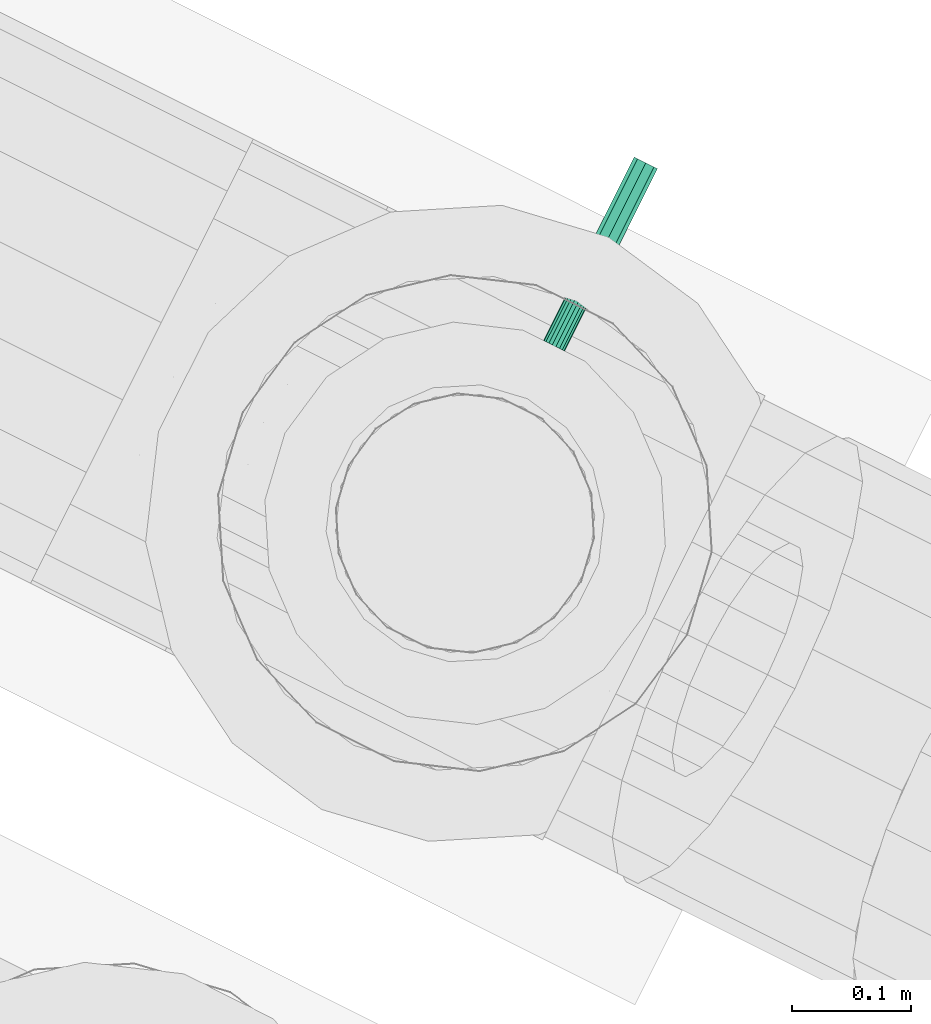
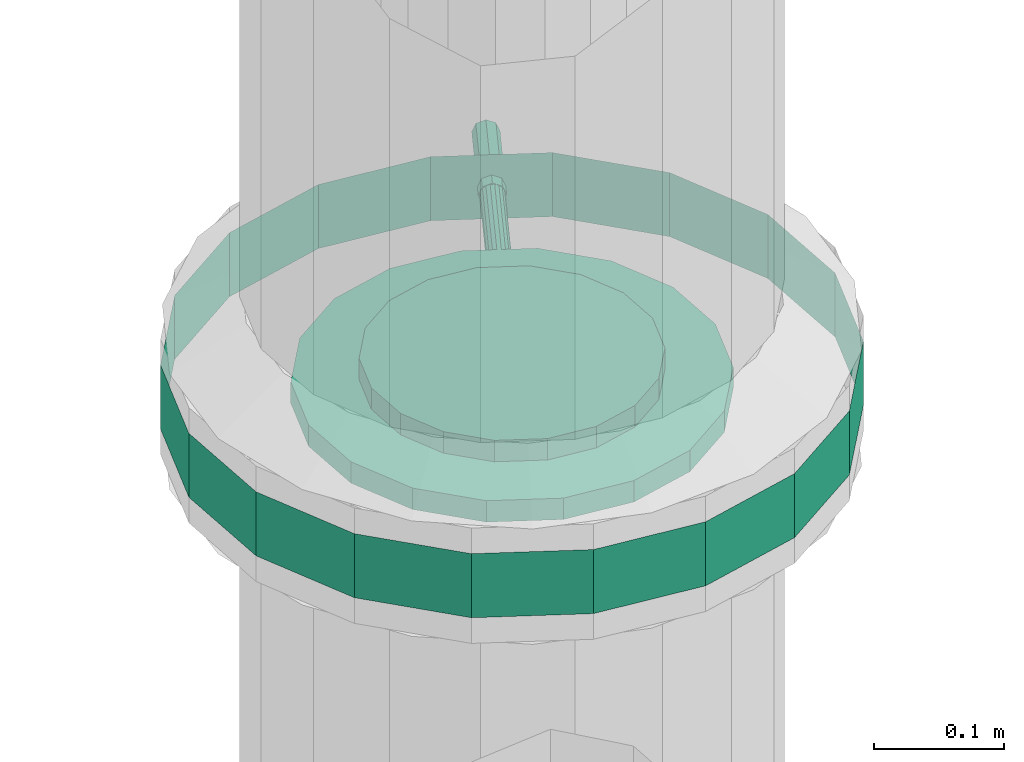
# One storey, part 138 of 152: 1 flow controller.
"""IFC2X3 building model written with IfcOpenShell, lengths in metres."""

from ifc_helpers import new_model, si_unit, derived_unit, direction, frame, origin, place, context, subcontext, project, spatial, face_set, surface_model, source, transform, mapped, material, type_object, type_shapes, element, save


model = new_model("IFC2X3")

# Units and contexts
model_context = context("Model", 3, precision=5.2338327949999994e-05, world=origin(), true_north=direction((0.0, 1.0)))
body_context = subcontext(model_context, "Body", "Model", "MODEL_VIEW")
ifc_project = project(units=[si_unit("LENGTHUNIT", "METRE"), si_unit("AREAUNIT", "SQUARE_METRE"), si_unit("VOLUMEUNIT", "CUBIC_METRE"), si_unit("MASSUNIT", "GRAM", prefix="KILO"), si_unit("PLANEANGLEUNIT", "RADIAN"), derived_unit("THERMALTRANSMITTANCEUNIT", [(si_unit("MASSUNIT", "GRAM", prefix="KILO"), 1), (si_unit("THERMODYNAMICTEMPERATUREUNIT", "KELVIN"), -1), (si_unit("TIMEUNIT", "SECOND"), -3)])], contexts=[model_context])

# Site, building, storey
site_placement = place(None, frame((0.0, 0.0, 0.0), z_axis=(0.0, 0.0, 1.0), x_axis=(0.8939966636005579, -0.4480736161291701, 0.0)))
site = spatial("IfcSite", under=ifc_project, at=site_placement, Name="Default", CompositionType="ELEMENT")
building_placement = place(site_placement, origin())
building = spatial("IfcBuilding", under=site, at=building_placement, CompositionType="ELEMENT")
storey_placement = place(building_placement, frame((0.0, 0.0, 2.7499999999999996)))
storey = spatial("IfcBuildingStorey", under=building, at=storey_placement, Name="1. Obergeschoss", CompositionType="ELEMENT", Elevation=2.7499999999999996)

# Flow controller
ifc_material = material(Name="IfcSurfaceStyle #1741")
distribution_element_type = type_object("IfcDistributionElementType", Name="Zwischenflanschklappe 5613:Zwischenflanschklappe 5613", material=ifc_material)
shared_shape = source(origin(), body_context, "Body", "SurfaceModel", [
    surface_model("IfcFaceBasedSurfaceModel", [(11.608314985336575, 8.012208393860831, 4.161028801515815), (11.615401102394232, 8.052395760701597, 4.161028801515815), (11.615401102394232, 8.052395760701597, 4.141028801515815), (11.608314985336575, 8.012208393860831, 4.141028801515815), (11.635804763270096, 8.087735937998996, 4.161028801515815), (11.635804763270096, 8.087735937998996, 4.141028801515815), (11.667064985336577, 8.113966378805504, 4.161028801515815), (11.667064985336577, 8.113966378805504, 4.141028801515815), (11.705411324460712, 8.127923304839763, 4.161028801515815), (11.705411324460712, 8.127923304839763, 4.141028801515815), (11.74621864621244, 8.127923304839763, 4.161028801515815), (11.74621864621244, 8.127923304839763, 4.141028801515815), (11.784564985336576, 8.113966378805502, 4.161028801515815), (11.784564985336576, 8.113966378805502, 4.141028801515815), (11.815825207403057, 8.087735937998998, 4.161028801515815), (11.815825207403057, 8.087735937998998, 4.141028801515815), (11.836228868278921, 8.052395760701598, 4.161028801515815), (11.836228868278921, 8.052395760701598, 4.141028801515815), (11.843314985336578, 8.012208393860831, 4.161028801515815), (11.843314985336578, 8.012208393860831, 4.141028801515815), (11.836228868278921, 7.972021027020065, 4.161028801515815), (11.836228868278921, 7.972021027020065, 4.141028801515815), (11.815825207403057, 7.936680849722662, 4.161028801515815), (11.815825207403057, 7.936680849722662, 4.141028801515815), (11.784564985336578, 7.91045040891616, 4.161028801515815), (11.784564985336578, 7.91045040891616, 4.141028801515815), (11.74621864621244, 7.896493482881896, 4.161028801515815), (11.74621864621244, 7.896493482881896, 4.141028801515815), (11.705411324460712, 7.896493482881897, 4.161028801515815), (11.705411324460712, 7.896493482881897, 4.141028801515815), (11.667064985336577, 7.910450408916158, 4.161028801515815), (11.667064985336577, 7.910450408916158, 4.141028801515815), (11.635804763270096, 7.936680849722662, 4.161028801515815), (11.635804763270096, 7.936680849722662, 4.141028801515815), (11.615401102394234, 7.972021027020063, 4.161028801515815), (11.615401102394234, 7.972021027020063, 4.141028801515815), (11.725814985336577, 8.012208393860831, 4.161028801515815), (11.725814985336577, 8.012208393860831, 4.141028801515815), (11.555814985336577, 8.012208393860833, 4.141028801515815), (11.566067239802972, 8.070351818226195, 4.141028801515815), (11.566067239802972, 8.070351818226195, 4.1210288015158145), (11.555814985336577, 8.012208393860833, 4.1210288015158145), (11.595587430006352, 8.121482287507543, 4.141028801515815), (11.595587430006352, 8.121482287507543, 4.1210288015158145), (11.640814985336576, 8.159432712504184, 4.141028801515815), (11.640814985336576, 8.159432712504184, 4.1210288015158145), (11.696294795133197, 8.179625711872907, 4.141028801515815), (11.696294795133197, 8.179625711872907, 4.1210288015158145), (11.755335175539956, 8.179625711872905, 4.141028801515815), (11.755335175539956, 8.179625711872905, 4.1210288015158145), (11.810814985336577, 8.159432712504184, 4.141028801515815), (11.810814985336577, 8.159432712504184, 4.1210288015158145), (11.856042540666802, 8.121482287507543, 4.141028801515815), (11.856042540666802, 8.121482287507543, 4.1210288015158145), (11.885562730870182, 8.070351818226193, 4.141028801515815), (11.885562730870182, 8.070351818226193, 4.1210288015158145), (11.895814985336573, 8.012208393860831, 4.141028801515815), (11.895814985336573, 8.012208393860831, 4.1210288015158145), (11.885562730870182, 7.954064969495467, 4.141028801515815), (11.885562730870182, 7.954064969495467, 4.1210288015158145), (11.856042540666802, 7.9029345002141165, 4.141028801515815), (11.856042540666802, 7.9029345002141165, 4.1210288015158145), (11.810814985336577, 7.864984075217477, 4.141028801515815), (11.810814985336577, 7.864984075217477, 4.1210288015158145), (11.755335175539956, 7.844791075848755, 4.141028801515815), (11.755335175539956, 7.844791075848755, 4.1210288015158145), (11.696294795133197, 7.844791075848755, 4.141028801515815), (11.696294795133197, 7.844791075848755, 4.1210288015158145), (11.640814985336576, 7.8649840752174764, 4.141028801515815), (11.640814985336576, 7.8649840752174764, 4.1210288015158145), (11.595587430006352, 7.90293450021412, 4.141028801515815), (11.595587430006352, 7.90293450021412, 4.1210288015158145), (11.566067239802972, 7.954064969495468, 4.141028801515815), (11.566067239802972, 7.954064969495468, 4.1210288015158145), (11.725814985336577, 8.012208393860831, 4.1210288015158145), (11.608314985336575, 8.012208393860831, 4.1210288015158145), (11.615401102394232, 8.052395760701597, 4.1210288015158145), (11.615401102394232, 8.052395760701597, 4.101028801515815), (11.608314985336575, 8.012208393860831, 4.101028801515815), (11.635804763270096, 8.087735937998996, 4.1210288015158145), (11.635804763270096, 8.087735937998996, 4.101028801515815), (11.667064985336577, 8.113966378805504, 4.1210288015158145), (11.667064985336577, 8.113966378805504, 4.101028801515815), (11.705411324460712, 8.127923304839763, 4.1210288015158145), (11.705411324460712, 8.127923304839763, 4.101028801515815), (11.74621864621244, 8.127923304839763, 4.1210288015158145), (11.74621864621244, 8.127923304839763, 4.101028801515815), (11.784564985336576, 8.113966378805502, 4.1210288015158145), (11.784564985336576, 8.113966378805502, 4.101028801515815), (11.815825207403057, 8.087735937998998, 4.1210288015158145), (11.815825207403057, 8.087735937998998, 4.101028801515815), (11.836228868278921, 8.052395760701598, 4.1210288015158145), (11.836228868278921, 8.052395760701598, 4.101028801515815), (11.843314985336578, 8.012208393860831, 4.1210288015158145), (11.843314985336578, 8.012208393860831, 4.101028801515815), (11.836228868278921, 7.972021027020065, 4.1210288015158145), (11.836228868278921, 7.972021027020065, 4.101028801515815), (11.815825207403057, 7.936680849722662, 4.1210288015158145), (11.815825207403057, 7.936680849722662, 4.101028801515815), (11.784564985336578, 7.91045040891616, 4.1210288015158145), (11.784564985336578, 7.91045040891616, 4.101028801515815), (11.74621864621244, 7.896493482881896, 4.1210288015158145), (11.74621864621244, 7.896493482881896, 4.101028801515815), (11.705411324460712, 7.896493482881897, 4.1210288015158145), (11.705411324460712, 7.896493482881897, 4.101028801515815), (11.667064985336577, 7.910450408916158, 4.1210288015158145), (11.667064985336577, 7.910450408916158, 4.101028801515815), (11.635804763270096, 7.936680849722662, 4.1210288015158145), (11.635804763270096, 7.936680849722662, 4.101028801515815), (11.615401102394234, 7.972021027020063, 4.1210288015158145), (11.615401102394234, 7.972021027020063, 4.101028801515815), (11.725814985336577, 8.012208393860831, 4.101028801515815), (11.715814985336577, 8.012208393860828, 4.131028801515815), (11.716418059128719, 8.012208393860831, 4.134449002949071), (11.716418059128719, 8.26720839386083, 4.13444900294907), (11.715814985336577, 8.267208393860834, 4.131028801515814), (11.718154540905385, 8.012208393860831, 4.137456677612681), (11.718154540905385, 8.267208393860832, 4.137456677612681), (11.720814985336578, 8.012208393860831, 4.139689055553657), (11.720814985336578, 8.267208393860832, 4.139689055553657), (11.724078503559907, 8.012208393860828, 4.140876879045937), (11.724078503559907, 8.26720839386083, 4.140876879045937), (11.727551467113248, 8.012208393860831, 4.140876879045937), (11.727551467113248, 8.267208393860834, 4.140876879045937), (11.730814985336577, 8.012208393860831, 4.139689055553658), (11.730814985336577, 8.267208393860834, 4.139689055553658), (11.73347542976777, 8.012208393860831, 4.137456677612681), (11.73347542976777, 8.267208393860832, 4.137456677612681), (11.735211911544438, 8.012208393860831, 4.134449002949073), (11.735211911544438, 8.267208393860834, 4.134449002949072), (11.735814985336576, 8.012208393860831, 4.131028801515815), (11.735814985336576, 8.267208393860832, 4.131028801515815), (11.735211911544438, 8.012208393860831, 4.127608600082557), (11.735211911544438, 8.267208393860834, 4.127608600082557), (11.73347542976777, 8.012208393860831, 4.1246009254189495), (11.73347542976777, 8.267208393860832, 4.1246009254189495), (11.730814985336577, 8.012208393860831, 4.122368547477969), (11.730814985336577, 8.267208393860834, 4.122368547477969), (11.727551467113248, 8.012208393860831, 4.121180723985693), (11.727551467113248, 8.267208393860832, 4.121180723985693), (11.724078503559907, 8.012208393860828, 4.121180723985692), (11.724078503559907, 8.26720839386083, 4.121180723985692), (11.720814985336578, 8.012208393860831, 4.122368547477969), (11.720814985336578, 8.267208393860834, 4.122368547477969), (11.718154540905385, 8.012208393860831, 4.12460092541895), (11.718154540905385, 8.267208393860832, 4.12460092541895), (11.716418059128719, 8.012208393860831, 4.127608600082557), (11.716418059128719, 8.26720839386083, 4.127608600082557), (11.725814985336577, 8.01220839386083, 4.131028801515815), (11.725814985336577, 8.26720839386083, 4.131028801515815), (11.714859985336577, 8.267208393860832, 4.131028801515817), (11.718068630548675, 8.267208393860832, 4.138775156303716), (11.718068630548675, 8.352208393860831, 4.138775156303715), (11.714859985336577, 8.352208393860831, 4.131028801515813), (11.725814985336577, 8.26720839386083, 4.141983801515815), (11.725814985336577, 8.352208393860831, 4.141983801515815), (11.733561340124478, 8.267208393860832, 4.138775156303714), (11.733561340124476, 8.352208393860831, 4.138775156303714), (11.736769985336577, 8.26720839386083, 4.131028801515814), (11.736769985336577, 8.35220839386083, 4.131028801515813), (11.733561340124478, 8.267208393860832, 4.1232824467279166), (11.733561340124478, 8.352208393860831, 4.123282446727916), (11.725814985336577, 8.26720839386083, 4.120073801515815), (11.725814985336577, 8.352208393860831, 4.120073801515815), (11.718068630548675, 8.267208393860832, 4.123282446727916), (11.718068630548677, 8.352208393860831, 4.123282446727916), (11.725814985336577, 8.352208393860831, 4.131028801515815), (11.455814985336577, 8.012208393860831, 4.161028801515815), (11.472097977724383, 8.104553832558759, 4.161028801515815), (11.472097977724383, 8.104553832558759, 4.101028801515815), (11.455814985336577, 8.012208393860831, 4.101028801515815), (11.518982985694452, 8.185761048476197, 4.161028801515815), (11.518982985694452, 8.185761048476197, 4.101028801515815), (11.590814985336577, 8.24603525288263, 4.161028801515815), (11.590814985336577, 8.24603525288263, 4.101028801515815), (11.678929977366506, 8.278106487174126, 4.161028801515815), (11.678929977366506, 8.278106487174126, 4.101028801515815), (11.772699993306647, 8.278106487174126, 4.161028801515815), (11.772699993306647, 8.278106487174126, 4.101028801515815), (11.860814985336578, 8.24603525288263, 4.161028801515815), (11.860814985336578, 8.24603525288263, 4.101028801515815), (11.932646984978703, 8.185761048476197, 4.161028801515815), (11.932646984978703, 8.185761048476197, 4.101028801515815), (11.979531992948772, 8.104553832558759, 4.161028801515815), (11.979531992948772, 8.104553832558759, 4.101028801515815), (11.995814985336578, 8.012208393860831, 4.161028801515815), (11.995814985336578, 8.012208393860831, 4.101028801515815), (11.979531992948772, 7.919862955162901, 4.161028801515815), (11.979531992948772, 7.919862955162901, 4.101028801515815), (11.932646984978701, 7.838655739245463, 4.161028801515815), (11.932646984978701, 7.838655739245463, 4.101028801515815), (11.860814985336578, 7.778381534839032, 4.161028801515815), (11.860814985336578, 7.778381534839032, 4.101028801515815), (11.772699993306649, 7.746310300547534, 4.161028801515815), (11.772699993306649, 7.746310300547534, 4.101028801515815), (11.678929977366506, 7.746310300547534, 4.161028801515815), (11.678929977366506, 7.746310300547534, 4.101028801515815), (11.590814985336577, 7.778381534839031, 4.161028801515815), (11.590814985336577, 7.778381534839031, 4.101028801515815), (11.518982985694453, 7.838655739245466, 4.161028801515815), (11.518982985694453, 7.838655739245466, 4.101028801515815), (11.472097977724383, 7.9198629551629, 4.161028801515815), (11.472097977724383, 7.9198629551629, 4.101028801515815)], [face_set([[[0, 1, 2, 3]], [[1, 4, 5, 2]], [[4, 6, 7, 5]], [[6, 8, 9, 7]], [[8, 10, 11, 9]], [[10, 12, 13, 11]], [[12, 14, 15, 13]], [[14, 16, 17, 15]], [[16, 18, 19, 17]], [[18, 20, 21, 19]], [[20, 22, 23, 21]], [[22, 24, 25, 23]], [[24, 26, 27, 25]], [[26, 28, 29, 27]], [[28, 30, 31, 29]], [[30, 32, 33, 31]], [[32, 34, 35, 33]], [[34, 0, 3, 35]], [[36, 1, 0]], [[36, 4, 1]], [[36, 6, 4]], [[36, 8, 6]], [[36, 10, 8]], [[36, 12, 10]], [[36, 14, 12]], [[36, 16, 14]], [[36, 18, 16]], [[36, 20, 18]], [[36, 22, 20]], [[36, 24, 22]], [[36, 26, 24]], [[36, 28, 26]], [[36, 30, 28]], [[36, 32, 30]], [[36, 34, 32]], [[36, 0, 34]], [[37, 35, 3]], [[37, 33, 35]], [[37, 31, 33]], [[37, 29, 31]], [[37, 27, 29]], [[37, 25, 27]], [[37, 23, 25]], [[37, 21, 23]], [[37, 19, 21]], [[37, 17, 19]], [[37, 15, 17]], [[37, 13, 15]], [[37, 11, 13]], [[37, 9, 11]], [[37, 7, 9]], [[37, 5, 7]], [[37, 2, 5]], [[37, 3, 2]], [[38, 39, 40, 41]], [[39, 42, 43, 40]], [[42, 44, 45, 43]], [[44, 46, 47, 45]], [[46, 48, 49, 47]], [[48, 50, 51, 49]], [[50, 52, 53, 51]], [[52, 54, 55, 53]], [[54, 56, 57, 55]], [[56, 58, 59, 57]], [[58, 60, 61, 59]], [[60, 62, 63, 61]], [[62, 64, 65, 63]], [[64, 66, 67, 65]], [[66, 68, 69, 67]], [[68, 70, 71, 69]], [[70, 72, 73, 71]], [[72, 38, 41, 73]], [[37, 39, 38]], [[37, 42, 39]], [[37, 44, 42]], [[37, 46, 44]], [[37, 48, 46]], [[37, 50, 48]], [[37, 52, 50]], [[37, 54, 52]], [[37, 56, 54]], [[37, 58, 56]], [[37, 60, 58]], [[37, 62, 60]], [[37, 64, 62]], [[37, 66, 64]], [[37, 68, 66]], [[37, 70, 68]], [[37, 72, 70]], [[37, 38, 72]], [[74, 73, 41]], [[74, 71, 73]], [[74, 69, 71]], [[74, 67, 69]], [[74, 65, 67]], [[74, 63, 65]], [[74, 61, 63]], [[74, 59, 61]], [[74, 57, 59]], [[74, 55, 57]], [[74, 53, 55]], [[74, 51, 53]], [[74, 49, 51]], [[74, 47, 49]], [[74, 45, 47]], [[74, 43, 45]], [[74, 40, 43]], [[74, 41, 40]], [[75, 76, 77, 78]], [[76, 79, 80, 77]], [[79, 81, 82, 80]], [[81, 83, 84, 82]], [[83, 85, 86, 84]], [[85, 87, 88, 86]], [[87, 89, 90, 88]], [[89, 91, 92, 90]], [[91, 93, 94, 92]], [[93, 95, 96, 94]], [[95, 97, 98, 96]], [[97, 99, 100, 98]], [[99, 101, 102, 100]], [[101, 103, 104, 102]], [[103, 105, 106, 104]], [[105, 107, 108, 106]], [[107, 109, 110, 108]], [[109, 75, 78, 110]], [[74, 76, 75]], [[74, 79, 76]], [[74, 81, 79]], [[74, 83, 81]], [[74, 85, 83]], [[74, 87, 85]], [[74, 89, 87]], [[74, 91, 89]], [[74, 93, 91]], [[74, 95, 93]], [[74, 97, 95]], [[74, 99, 97]], [[74, 101, 99]], [[74, 103, 101]], [[74, 105, 103]], [[74, 107, 105]], [[74, 109, 107]], [[74, 75, 109]], [[111, 110, 78]], [[111, 108, 110]], [[111, 106, 108]], [[111, 104, 106]], [[111, 102, 104]], [[111, 100, 102]], [[111, 98, 100]], [[111, 96, 98]], [[111, 94, 96]], [[111, 92, 94]], [[111, 90, 92]], [[111, 88, 90]], [[111, 86, 88]], [[111, 84, 86]], [[111, 82, 84]], [[111, 80, 82]], [[111, 77, 80]], [[111, 78, 77]], [[112, 113, 114, 115]], [[113, 116, 117, 114]], [[116, 118, 119, 117]], [[118, 120, 121, 119]], [[120, 122, 123, 121]], [[122, 124, 125, 123]], [[124, 126, 127, 125]], [[126, 128, 129, 127]], [[128, 130, 131, 129]], [[130, 132, 133, 131]], [[132, 134, 135, 133]], [[134, 136, 137, 135]], [[136, 138, 139, 137]], [[138, 140, 141, 139]], [[140, 142, 143, 141]], [[142, 144, 145, 143]], [[144, 146, 147, 145]], [[146, 112, 115, 147]], [[148, 113, 112]], [[148, 116, 113]], [[148, 118, 116]], [[148, 120, 118]], [[148, 122, 120]], [[148, 124, 122]], [[148, 126, 124]], [[148, 128, 126]], [[148, 130, 128]], [[148, 132, 130]], [[148, 134, 132]], [[148, 136, 134]], [[148, 138, 136]], [[148, 140, 138]], [[148, 142, 140]], [[148, 144, 142]], [[148, 146, 144]], [[148, 112, 146]], [[149, 147, 115]], [[149, 145, 147]], [[149, 143, 145]], [[149, 141, 143]], [[149, 139, 141]], [[149, 137, 139]], [[149, 135, 137]], [[149, 133, 135]], [[149, 131, 133]], [[149, 129, 131]], [[149, 127, 129]], [[149, 125, 127]], [[149, 123, 125]], [[149, 121, 123]], [[149, 119, 121]], [[149, 117, 119]], [[149, 114, 117]], [[149, 115, 114]], [[150, 151, 152, 153]], [[151, 154, 155, 152]], [[154, 156, 157, 155]], [[156, 158, 159, 157]], [[158, 160, 161, 159]], [[160, 162, 163, 161]], [[162, 164, 165, 163]], [[164, 150, 153, 165]], [[166, 165, 153]], [[166, 163, 165]], [[166, 161, 163]], [[166, 159, 161]], [[166, 157, 159]], [[166, 155, 157]], [[166, 152, 155]], [[166, 153, 152]], [[167, 168, 169, 170]], [[168, 171, 172, 169]], [[171, 173, 174, 172]], [[173, 175, 176, 174]], [[175, 177, 178, 176]], [[177, 179, 180, 178]], [[179, 181, 182, 180]], [[181, 183, 184, 182]], [[183, 185, 186, 184]], [[185, 187, 188, 186]], [[187, 189, 190, 188]], [[189, 191, 192, 190]], [[191, 193, 194, 192]], [[193, 195, 196, 194]], [[195, 197, 198, 196]], [[197, 199, 200, 198]], [[199, 201, 202, 200]], [[201, 167, 170, 202]]])]),
])
type_shapes(distribution_element_type, [shared_shape])
flow_controller_placement = place(storey_placement, frame((0.0, 0.0, -2.7499999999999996)))
element("IfcFlowController", 1, at=flow_controller_placement, inside=storey, type_object=distribution_element_type, material=ifc_material, Name="Zwischenflanschklappe", ObjectType="Zwischenflanschklappe", context=body_context, shape_type="MappedRepresentation", body=[
    mapped(shared_shape, transform((0.0, 0.0, 0.0), scale=1.0)),
])

save(model, "model.ifc")
